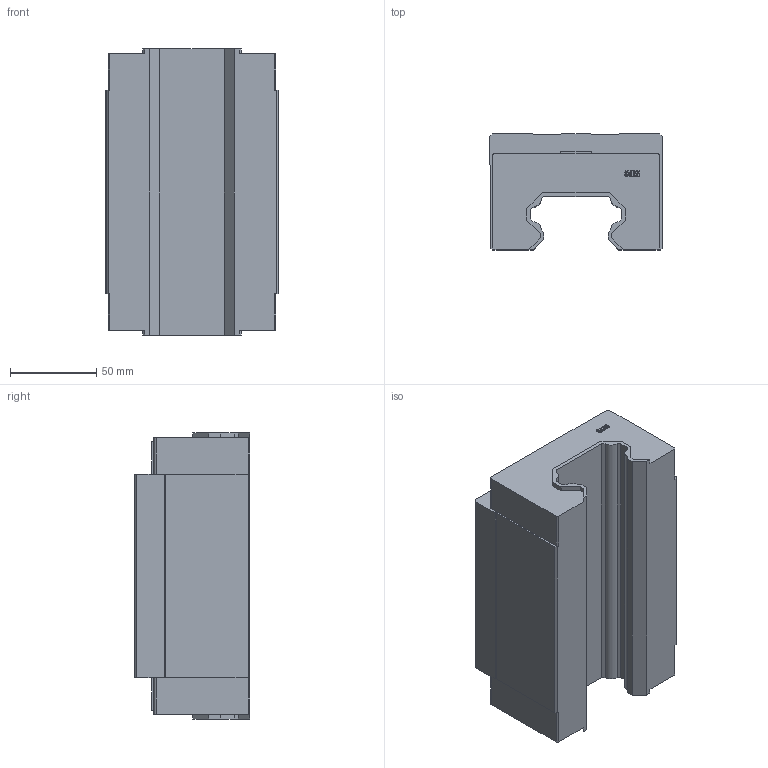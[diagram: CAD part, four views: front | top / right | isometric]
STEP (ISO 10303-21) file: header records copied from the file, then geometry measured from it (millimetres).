
FILE_DESCRIPTION (( 'STEP AP203' ), '1' );
FILE_NAME ('SMH55B.stp', '2019-09-25T04:33:24', ( 'pgos' ), ( '' ), 'SwSTEP 2.0', 'SolidWorks 2014', '' );
FILE_SCHEMA (( 'CONFIG_CONTROL_DESIGN' ));
Length unit declared in the file: millimetre
Products named in the file (1): SMH55B
Bounding box: 100 x 67 x 165.7 mm (x, y, z)
Volume: 783535.1 mm3; surface area: 78933.9 mm2
Topology: 1 solids, 1 shells, 251 faces, 724 edges, 476 vertices
Faces by surface type: plane 168, bspline 59, cylinder 16, cone 8
Entity records: 10521 total; most frequent: CARTESIAN_POINT 4271, ORIENTED_EDGE 1432, DIRECTION 1016, EDGE_CURVE 716, LINE 566, VECTOR 566, VERTEX_POINT 476, EDGE_LOOP 260
